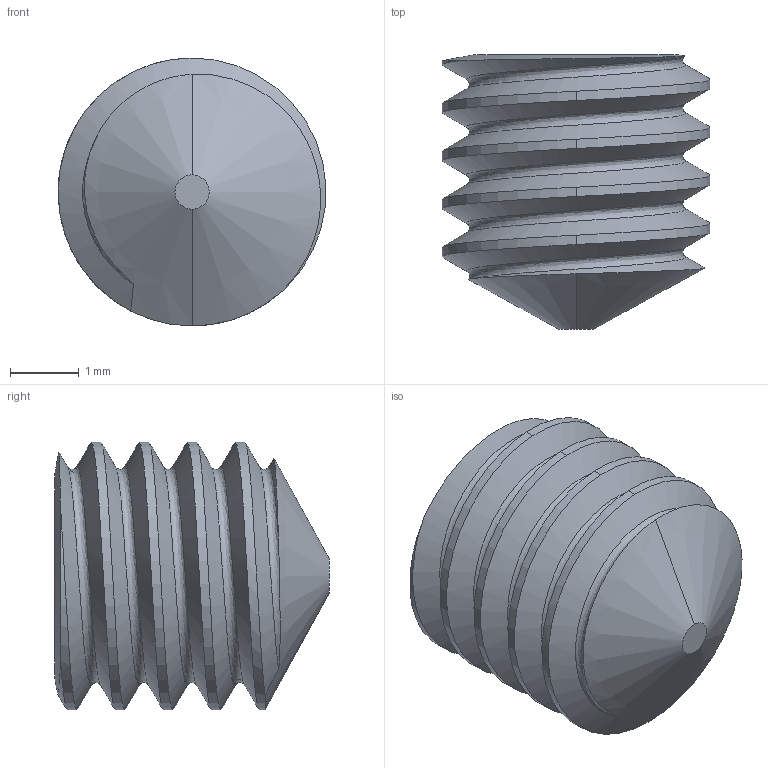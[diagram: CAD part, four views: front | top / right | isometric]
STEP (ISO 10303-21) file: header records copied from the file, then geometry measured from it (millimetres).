
FILE_DESCRIPTION (( 'STEP AP203' ), '1' );
FILE_NAME ('11.03.481-0 Grub Screw f. mini system S.STEP', '2024-03-06T11:40:33', ( '' ), ( '' ), 'SwSTEP 2.0', 'SolidWorks 2024', '' );
FILE_SCHEMA (( 'CONFIG_CONTROL_DESIGN' ));
Length unit declared in the file: millimetre
Products named in the file (1): 11.03.481-0 Grub Screw f. mini system S
Bounding box: 3.9 x 4 x 3.91 mm (x, y, z)
Surface area: 89.3 mm2 (no closed solid volume)
Topology: 0 solids, 1 shells, 25 faces, 68 edges, 45 vertices
Faces by surface type: cylinder 10, plane 8, cone 4, bspline 3
Entity records: 7897 total; most frequent: CARTESIAN_POINT 7275, ORIENTED_EDGE 130, DIRECTION 91, EDGE_CURVE 68, VERTEX_POINT 45, VECTOR 31, LINE 31, AXIS2_PLACEMENT_3D 30
